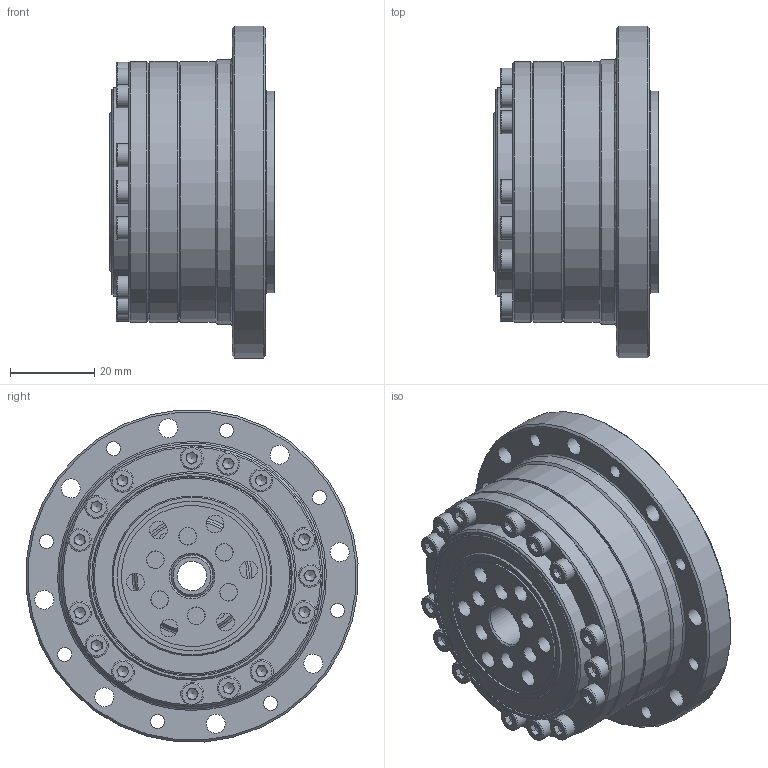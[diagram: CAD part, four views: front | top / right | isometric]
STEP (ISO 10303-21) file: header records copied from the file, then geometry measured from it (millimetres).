
FILE_DESCRIPTION (( 'STEP AP203' ), '1' );
FILE_NAME ('LCSG-17-XXX-C-I-S0.STEP', '2025-01-20T01:52:20', ( '' ), ( '' ), 'SwSTEP 2.0', 'SolidWorks 2023', '' );
FILE_SCHEMA (( 'CONFIG_CONTROL_DESIGN' ));
Length unit declared in the file: metre
Products named in the file (1): LCSG-17-XXX-C-I-S0
Bounding box: 39 x 78.79 x 78.79 mm (x, y, z)
Volume: 88492 mm3; surface area: 69317.2 mm2
Topology: 60 solids, 60 shells, 979 faces, 2307 edges, 1450 vertices
Faces by surface type: plane 505, cylinder 252, cone 129, bspline 93
Full cylindrical faces by diameter (mm): 1.6 x4, 2 x4, 2.4 x4, 2.5 x15, 3 x19, 3.3 x12, 3.5 x25, 3.8 x4, 4.2 x12, 4.4 x2, 4.5 x8, 5 x6, 5.5 x27, 7 x1, 8.5 x6, 10 x3, 16 x3, 27 x2, 27.2 x1, 28 x1, 29.4 x1, 30 x1, 30.295 x1, 32 x1, 32.53 x2, 33.23 x1, 33.5 x1, 35.5 x2, 38 x1, 38.1 x1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
Entity records: 30505 total; most frequent: CARTESIAN_POINT 10103, DIRECTION 4248, ORIENTED_EDGE 3584, EDGE_CURVE 1792, AXIS2_PLACEMENT_3D 1749, EDGE_LOOP 1582, VERTEX_POINT 1336, FACE_OUTER_BOUND 1231
